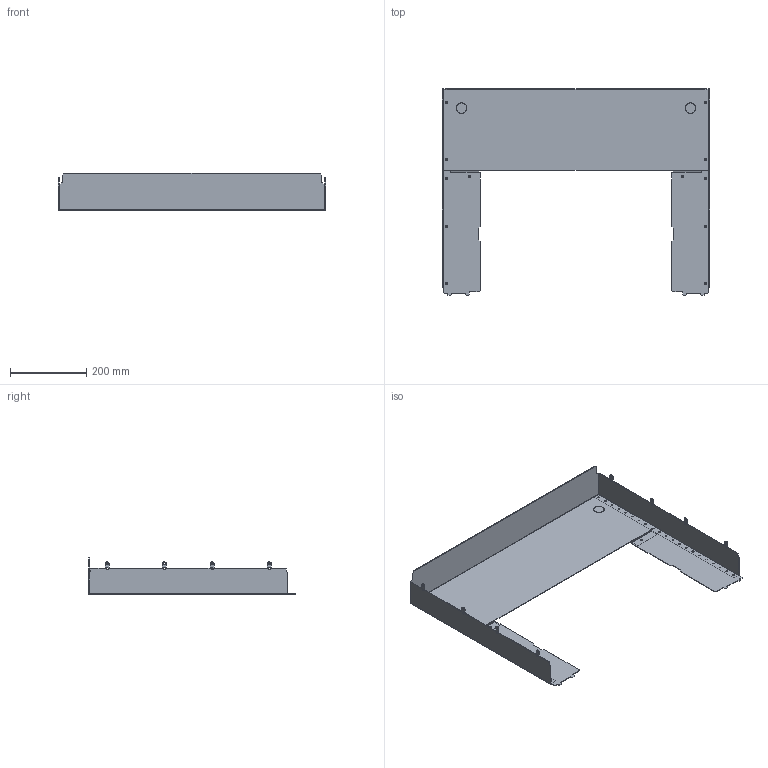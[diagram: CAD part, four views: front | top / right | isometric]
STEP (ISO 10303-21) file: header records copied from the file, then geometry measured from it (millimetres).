
FILE_DESCRIPTION(('CAx-IF Rec.Pracs.---Model Styling and Organization---1.2---2011-12-15','CAx-IF Rec.Pracs.---Geometric and Assembly Validation Properties---4.1---2014-06-16','CAx-IF Rec.Pracs.---PMI Polyline Presentation---2.0---2013-05-24'),'2;1');
FILE_NAME('R5FRC7V811254P.stp','2021-07-29T02:06:55+03:00',(''),(''),'STEP Interface 4.4 by CT CoreTechnologie','3D_Evolution4.4 by CT CoreTechnologie','');
FILE_SCHEMA(('AUTOMOTIVE_DESIGN { 1 0 10303 214 1 1 1 1 }'));
Length unit declared in the file: millimetre
Products named in the file (1): R5FRC6V811254P
Bounding box: 700 x 540 x 98.5 mm (x, y, z)
Surface area: 750295.5 mm2 (no closed solid volume)
Topology: 0 solids, 7 shells, 369 faces, 1043 edges, 688 vertices
Faces by surface type: cylinder 186, plane 183
Entity records: 12363 total; most frequent: DIRECTION 2155, CARTESIAN_POINT 2101, ORIENTED_EDGE 2086, EDGE_CURVE 1043, AXIS2_PLACEMENT_3D 742, VERTEX_POINT 688, VECTOR 671, LINE 671
